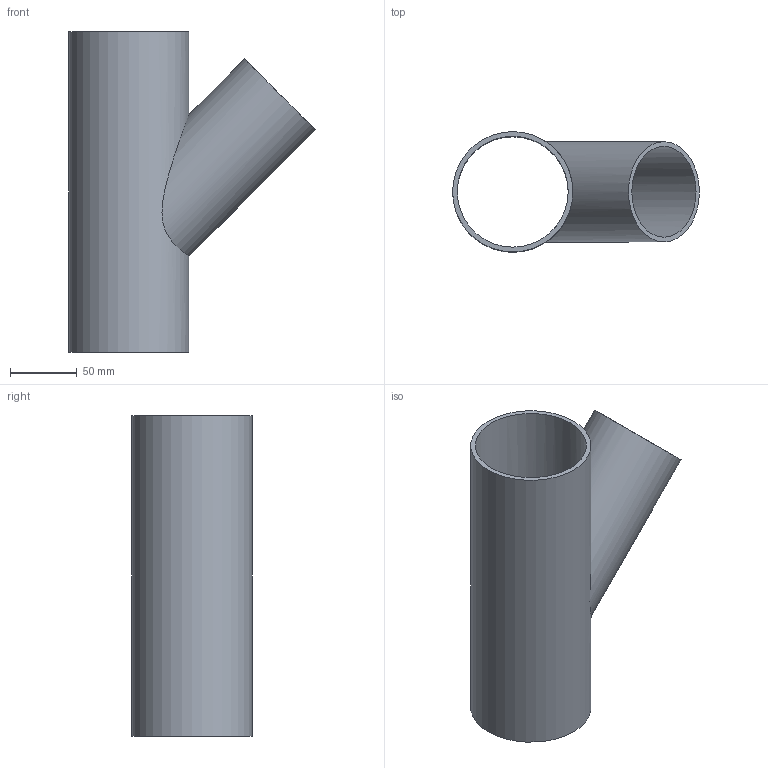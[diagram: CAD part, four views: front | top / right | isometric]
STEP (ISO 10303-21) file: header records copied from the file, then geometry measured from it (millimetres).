
FILE_DESCRIPTION(/* description */ (''),/* implementation_level */ '2;1');
FILE_NAME(/* name */ 'C:\Planerdaten\Export PLA\PRO_101557\stp\366125.stp',/* time_stamp */ '2021-09-30T15:05:53+02:00',/* author */ ('JANAN'),/* organization */ (''),/* preprocessor_version */ 'ST-DEVELOPER v16.13',/* originating_system */ 'Autodesk Inventor 2018',/* authorisation */ '');
FILE_SCHEMA (('CONFIG_CONTROL_DESIGN','AUTOMOTIVE_DESIGN { 1 0 10303 214 3 1 1 }'));
Length unit declared in the file: millimetre
Products named in the file (1): tmp314A.tmp
Bounding box: 184.65 x 90 x 240 mm (x, y, z)
Volume: 293210.8 mm3; surface area: 170306.4 mm2
Topology: 1 solids, 1 shells, 7 faces, 17 edges, 12 vertices
Faces by surface type: cylinder 4, plane 3
Full cylindrical faces by diameter (mm): 68 x1, 75 x1, 83 x1, 90 x1
Entity records: 348 total; most frequent: CARTESIAN_POINT 170, DIRECTION 28, EDGE_LOOP 16, ORIENTED_EDGE 16, AXIS2_PLACEMENT_3D 14, FACE_BOUND 9, VERTEX_POINT 8, EDGE_CURVE 8
